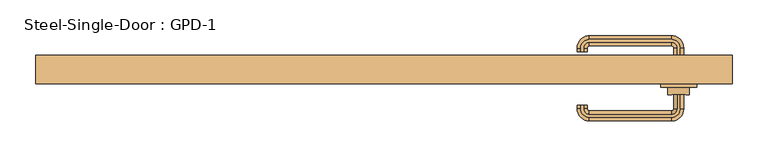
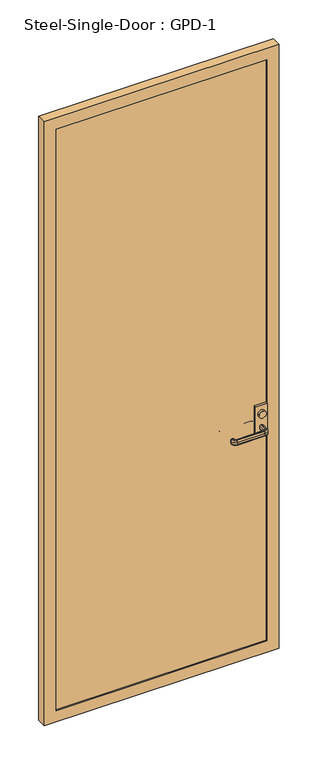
"""IFC4 building model written with IfcOpenShell, lengths in millimetres: door geometry, Steel-Single-Door : GPD-1."""

import ifcopenshell
import ifcopenshell.guid

model = None  # the IFC model being written
_history = None  # IfcOwnerHistory: only IFC2X3 demands one
_inside = {}  # id of a spatial element -> (the spatial element, [elements in it])
_under = {}  # id of a project, library or spatial element -> (it, [spatial elements below it])
_declared = {}  # id of a project -> (the project, [libraries it declares])
_typed = {}  # id of a type object -> (the type object, [elements of that type])
_made_of = {}  # id of a material, layer set ... -> (it, [elements and type objects made of it])


def new_model(schema):
    """Start an empty IFC model of exactly this schema.

    Asked for "IFC4X3", IfcOpenShell would pick the latest addendum, in which some entities
    have other attributes; the version numbers below select the first issue.
    IFC2X3 requires an IfcOwnerHistory on every rooted entity: one is made here for all.
    """
    global model, _history
    if schema == "IFC4X3":
        model = ifcopenshell.file(schema_version=(4, 3, 0, 0))
    else:
        model = ifcopenshell.file(schema=schema)
    _inside.clear()
    _under.clear()
    _declared.clear()
    _typed.clear()
    _made_of.clear()
    _history = None
    if model.schema == "IFC2X3":
        org = make("IfcOrganization", Name="unknown")
        user = make(
            "IfcPersonAndOrganization",
            ThePerson=make("IfcPerson", FamilyName="unknown"),
            TheOrganization=org,
        )
        app = make(
            "IfcApplication",
            ApplicationDeveloper=org,
            Version="unknown",
            ApplicationFullName="unknown",
            ApplicationIdentifier="unknown",
        )
        _history = make(
            "IfcOwnerHistory",
            OwningUser=user,
            OwningApplication=app,
            ChangeAction="ADDED",
            CreationDate=0,
        )
    return model


def make(cls, **values):
    """One entity of the class cls with the attributes given. An attribute that is None is left unset."""
    return model.create_entity(
        cls, **{name: value for name, value in values.items() if value is not None}
    )


def rooted(cls, **values):
    """An entity with a GlobalId (a new one), such as an element, a storey or a relation."""
    return make(cls, GlobalId=ifcopenshell.guid.new(), OwnerHistory=_history, **values)


def si_unit(unit_type, name, prefix=None):
    """IfcSIUnit, for example si_unit("LENGTHUNIT", "METRE", prefix="MILLI")."""
    return make("IfcSIUnit", UnitType=unit_type, Prefix=prefix, Name=name)


def assignment(units):
    """IfcUnitAssignment: the units of a project."""
    return None if units is None else make("IfcUnitAssignment", Units=units)


def point(xyz):
    """IfcCartesianPoint."""
    return None if xyz is None else make("IfcCartesianPoint", Coordinates=xyz)


def direction(xyz):
    """IfcDirection."""
    return None if xyz is None else make("IfcDirection", DirectionRatios=xyz)


def frame(location, z_axis=None, x_axis=None):
    """IfcAxis2Placement3D, a coordinate frame: its origin and axes. An axis left out is left unset."""
    return make(
        "IfcAxis2Placement3D",
        Location=point(location),
        Axis=direction(z_axis),
        RefDirection=direction(x_axis),
    )


def frame_2d(location, x_axis=None):
    """IfcAxis2Placement2D, a coordinate frame in the plane: its origin and x axis."""
    return make(
        "IfcAxis2Placement2D", Location=point(location), RefDirection=direction(x_axis)
    )


def origin():
    """The frame at (0, 0, 0) with its axes left unset."""
    return frame((0.0, 0.0, 0.0))


def place(relative_to, where):
    """IfcLocalPlacement: puts the frame where relative to a parent placement (None: the world)."""
    return make(
        "IfcLocalPlacement", PlacementRelTo=relative_to, RelativePlacement=where
    )


def context(
    kind, dimensions, precision=None, world=None, true_north=None, identifier=None
):
    """IfcGeometricRepresentationContext, for example the 3D "Model" context."""
    return make(
        "IfcGeometricRepresentationContext",
        ContextIdentifier=identifier,
        ContextType=kind,
        CoordinateSpaceDimension=dimensions,
        Precision=precision,
        WorldCoordinateSystem=world,
        TrueNorth=true_north,
    )


def project(units=None, contexts=None):
    """IfcProject with its units and contexts."""
    return rooted(
        "IfcProject",
        Name="project",
        RepresentationContexts=contexts,
        UnitsInContext=assignment(units),
    )


def spatial(cls, under=None, at=None, **own):
    """A site, building, storey or space (cls), placed at a placement, below another one or the project."""
    s = rooted(cls, ObjectPlacement=at, **own)
    if under is not None:
        _under.setdefault(under.id(), (under, []))[1].append(s)
    return s


def polyline(points):
    """IfcPolyline through the points."""
    return make("IfcPolyline", Points=[point(p) for p in points])


def circle_curve(where, radius):
    """IfcCircle in the frame where."""
    return make("IfcCircle", Position=where, Radius=radius)


def ellipse_curve(where, semi_axis1, semi_axis2):
    """IfcEllipse in the frame where."""
    return make(
        "IfcEllipse", Position=where, SemiAxis1=semi_axis1, SemiAxis2=semi_axis2
    )


def trimmed(basis, trim1, trim2, sense, master):
    """IfcTrimmedCurve: the piece of a basis curve between two trims."""
    return make(
        "IfcTrimmedCurve",
        BasisCurve=basis,
        Trim1=trim1,
        Trim2=trim2,
        SenseAgreement=sense,
        MasterRepresentation=master,
    )


def segment(curve, same_sense, transition):
    """IfcCompositeCurveSegment."""
    return make(
        "IfcCompositeCurveSegment",
        Transition=transition,
        SameSense=same_sense,
        ParentCurve=curve,
    )


def composite_curve(segments, self_intersect=None):
    """IfcCompositeCurve: segments joined end to end."""
    return make("IfcCompositeCurve", Segments=segments, SelfIntersect=self_intersect)


def outline(outer, holes=None, kind="AREA"):
    """IfcArbitraryClosedProfileDef: a profile drawn as a closed curve; with holes, ...WithVoids."""
    if holes is None:
        return make("IfcArbitraryClosedProfileDef", ProfileType=kind, OuterCurve=outer)
    return make(
        "IfcArbitraryProfileDefWithVoids",
        ProfileType=kind,
        OuterCurve=outer,
        InnerCurves=holes,
    )


def extrude(swept, where, along, depth):
    """IfcExtrudedAreaSolid: the profile swept, set in the frame where, extruded along a direction by depth."""
    return make(
        "IfcExtrudedAreaSolid",
        SweptArea=swept,
        Position=where,
        ExtrudedDirection=direction(along),
        Depth=depth,
    )


def shape(context_of_items, identifier, shape_type, items):
    """IfcShapeRepresentation: the items that make up one representation, for example the "Body"."""
    return make(
        "IfcShapeRepresentation",
        ContextOfItems=context_of_items,
        RepresentationIdentifier=identifier,
        RepresentationType=shape_type,
        Items=items,
    )


def source(mapping_origin, context_of_items, identifier, shape_type, items):
    """IfcRepresentationMap: a shape defined once, which mapped items show again and again."""
    return make(
        "IfcRepresentationMap",
        MappingOrigin=mapping_origin,
        MappedRepresentation=shape(context_of_items, identifier, shape_type, items),
    )


def transform(
    local_origin,
    x_axis=None,
    y_axis=None,
    z_axis=None,
    scale=None,
    scale2=None,
    scale3=None,
    uniform=True,
):
    """IfcCartesianTransformationOperator3D, or its non-uniform kind. x_axis, y_axis, z_axis: its Axis1, 2, 3."""
    if uniform:
        return make(
            "IfcCartesianTransformationOperator3D",
            Axis1=direction(x_axis),
            Axis2=direction(y_axis),
            LocalOrigin=point(local_origin),
            Scale=scale,
            Axis3=direction(z_axis),
        )
    return make(
        "IfcCartesianTransformationOperator3DnonUniform",
        Axis1=direction(x_axis),
        Axis2=direction(y_axis),
        LocalOrigin=point(local_origin),
        Scale=scale,
        Axis3=direction(z_axis),
        Scale2=scale2,
        Scale3=scale3,
    )


def mapped(mapping_source, mapping_target):
    """IfcMappedItem: shows the shape of a source again, moved by a transform."""
    return make(
        "IfcMappedItem", MappingSource=mapping_source, MappingTarget=mapping_target
    )


def made_of(thing, what):
    """Note that an element or type object is made of a material, layer set ...; save() writes the relation."""
    if what is not None:
        _made_of.setdefault(what.id(), (what, []))[1].append(thing)
    return thing


def element(
    cls,
    number,
    at=None,
    inside=None,
    cuts=None,
    type_object=None,
    material=None,
    context=None,
    identifier="Body",
    shape_type=None,
    held_by="IfcProductDefinitionShape",
    body=None,
    shapes=None,
    **own,
):
    """One element of the class cls, such as IfcWall. Its Tag is "e" and its number.

    at: its placement. inside: the storey or other place that contains it. cuts: it is an
    opening in that element (IfcRelVoidsElement). A single representation is given by context,
    identifier, shape_type and body (its items); several are given by shapes. held_by: the class
    of the entity that holds the representations. save() writes the other relations.
    """
    e = rooted(cls, Tag="e%d" % number, ObjectPlacement=at, **own)
    if body is not None:
        shapes = [shape(context, identifier, shape_type, body)]
    if shapes is not None:
        e.Representation = make(held_by, Representations=shapes)
    if inside is not None:
        _inside.setdefault(inside.id(), (inside, []))[1].append(e)
    if cuts is not None:
        rooted(
            "IfcRelVoidsElement", RelatingBuildingElement=cuts, RelatedOpeningElement=e
        )
    if type_object is not None:
        _typed.setdefault(type_object.id(), (type_object, []))[1].append(e)
    return made_of(e, material)


def aggregate(whole, parts):
    """IfcRelAggregates: a whole, such as a stair, and the parts it consists of."""
    return rooted("IfcRelAggregates", RelatingObject=whole, RelatedObjects=parts)


def save(model, path):
    """Write the relations noted so far, then the file.

    IfcRelAggregates (storeys below a building ...), IfcRelContainedInSpatialStructure (elements
    in a storey), IfcRelDefinesByType, IfcRelAssociatesMaterial and IfcRelDeclares: one each for
    every whole, place, type object, material and project.
    """
    for whole, parts in _under.values():
        aggregate(whole, parts)
    for where, things in _inside.values():
        rooted(
            "IfcRelContainedInSpatialStructure",
            RelatedElements=things,
            RelatingStructure=where,
        )
    for kind, things in _typed.values():
        rooted("IfcRelDefinesByType", RelatedObjects=things, RelatingType=kind)
    for what, things in _made_of.values():
        rooted("IfcRelAssociatesMaterial", RelatedObjects=things, RelatingMaterial=what)
    for by, libraries in _declared.values():
        rooted("IfcRelDeclares", RelatingContext=by, RelatedDefinitions=libraries)
    model.write(path)


def plane_surface(at):
    """IfcPlane: the flat surface through the origin of the frame at, square to its z axis."""
    return make("IfcPlane", Position=at)


def cylinder_surface(at, radius):
    """IfcCylindricalSurface: all points at the distance radius from the z axis of the frame at."""
    return make("IfcCylindricalSurface", Position=at, Radius=radius)


def revolved_surface(curve, axis_point, axis_direction):
    """IfcSurfaceOfRevolution: the curve turned about the line through axis_point along axis_direction."""
    return make(
        "IfcSurfaceOfRevolution",
        SweptCurve=make("IfcArbitraryOpenProfileDef", ProfileType="CURVE", Curve=curve),
        AxisPosition=make("IfcAxis1Placement", Location=point(axis_point), Axis=direction(axis_direction)),
    )


def advanced_brep(points, edges, surfaces, faces):
    """IfcAdvancedBrep: a solid bounded by faces that lie on surfaces and meet in shared edges.

    An edge is (start, end): straight between two places in points (the first is 0);
    or (start, end, curve); or (start, end, curve, False) where it runs against its curve.
    A face is (place in surfaces, loops), or (place, loops, False) where it looks against
    its surface's normal. A loop lists edges by number (the first is 1), with a minus sign
    where the edge is run from its end to its start. The first loop is the outer one.
    """
    corners = [point(p) for p in points]
    vertices = [make("IfcVertexPoint", VertexGeometry=c) for c in corners]
    made = []
    for start, end, *more in edges:
        made.append(
            make(
                "IfcEdgeCurve",
                EdgeStart=vertices[start],
                EdgeEnd=vertices[end],
                EdgeGeometry=more[0] if more else make("IfcPolyline", Points=[corners[start], corners[end]]),
                SameSense=more[1] if len(more) > 1 else True,
            )
        )
    hull = []
    for where, loops, *sense in faces:
        bounds = []
        for j, loop in enumerate(loops):
            ring = [make("IfcOrientedEdge", EdgeElement=made[abs(k) - 1], Orientation=k > 0) for k in loop]
            bounds.append(
                make(
                    "IfcFaceOuterBound" if j == 0 else "IfcFaceBound",
                    Bound=make("IfcEdgeLoop", EdgeList=ring),
                    Orientation=True,
                )
            )
        hull.append(make("IfcAdvancedFace", Bounds=bounds, FaceSurface=surfaces[where], SameSense=sense[0] if sense else True))
    return make("IfcAdvancedBrep", Outer=make("IfcClosedShell", CfsFaces=hull))


def steel_single_door_gpd_1_74bd187e(model_context):
    return source(origin(), model_context, "Body", "SolidModel", [
        extrude(outline(composite_curve([segment(trimmed(circle_curve(frame_2d((1060.1793562, 412.5)), 15.0), [point((1060.1793562, 397.5))], [point((1060.1793562, 427.5))], False, "CARTESIAN"), True, "CONTINUOUS"), segment(trimmed(circle_curve(frame_2d((1060.1793562, 412.5)), 15.0), [point((1060.1793562, 427.5))], [point((1060.1793562, 397.5))], False, "CARTESIAN"), True, "CONTINUOUS")], self_intersect=False)), frame((0.0, -65.0, 0.0), z_axis=(0.0, 1.0, 0.0), x_axis=(0.0, 0.0, 1.0)), (0.0, 0.0, 1.0), 10.0),
        extrude(outline(composite_curve([segment(trimmed(circle_curve(frame_2d((1060.1793562, 412.5)), 15.0), [point((1060.1793562, 427.5))], [point((1060.1793562, 397.5))], False, "CARTESIAN"), True, "CONTINUOUS"), segment(trimmed(circle_curve(frame_2d((1060.1793562, 412.5)), 15.0), [point((1060.1793562, 397.5))], [point((1060.1793562, 427.5))], False, "CARTESIAN"), True, "CONTINUOUS")], self_intersect=False)), frame((0.0, -30.0, 0.0), z_axis=(0.0, 1.0, 0.0), x_axis=(0.0, 0.0, 1.0)), (0.0, 0.0, 1.0), 10.0),
        advanced_brep(
        [(414.5, -55.0, 1010.0), (419.5, -55.0, 1005.0), (419.5, -55.0, 995.0477623), (414.5, -55.0, 990.0477623), (410.5, -55.0, 990.0477623), (405.5, -55.0, 995.0477623), (405.5, -55.0, 1005.0), (410.5, -55.0, 1010.0), (414.5, -85.0, 1010.0), (419.5, -85.0, 1005.0), (419.5, -85.0, 995.0477623), (414.5, -85.0, 990.0477623), (402.5, -97.0, 990.0477623), (287.5, -97.0, 990.0477623), (275.5, -85.0, 990.0477623), (275.5, -80.0, 990.0477623), (279.5, -80.0, 990.0477623), (279.5, -85.0, 990.0477623), (287.5, -93.0, 990.0477623), (402.5, -93.0, 990.0477623), (410.5, -85.0, 990.0477623), (405.5, -85.0, 995.0477623), (405.5, -85.0, 1005.0), (410.5, -85.0, 1010.0), (402.5, -93.0, 1010.0), (287.5, -93.0, 1010.0), (279.5, -85.0, 1010.0), (279.5, -80.0, 1010.0), (275.5, -80.0, 1010.0), (275.5, -85.0, 1010.0), (287.5, -97.0, 1010.0), (402.5, -97.0, 1010.0), (402.5, -102.0, 1005.0), (402.5, -102.0, 995.0477623), (402.5, -88.0, 995.0477623), (402.5, -88.0, 1005.0), (287.5, -102.0, 1005.0), (287.5, -102.0, 995.0477623), (287.5, -88.0, 995.0477623), (287.5, -88.0, 1005.0), (270.5, -85.0, 1005.0), (270.5, -85.0, 995.0477623), (284.5, -85.0, 995.0477623), (284.5, -85.0, 1005.0), (284.5, -80.0, 1005.0), (284.5, -80.0, 995.0477623), (270.5, -80.0, 995.0477623), (270.5, -80.0, 1005.0)],
        [
            (0, 1, circle_curve(frame((414.5, -55.0, 1005.0), z_axis=(0.0, 1.0, 0.0), x_axis=(1.0, 0.0, 0.0)), 5.0)),
            (1, 2),
            (2, 3, circle_curve(frame((414.5, -55.0, 995.0477623), z_axis=(0.0, 1.0, 0.0), x_axis=(1.0, 0.0, 0.0)), 5.0)),
            (3, 4),
            (4, 5, circle_curve(frame((410.5, -55.0, 995.0477623), z_axis=(0.0, 1.0, 0.0), x_axis=(1.0, 0.0, 0.0)), 5.0)),
            (5, 6),
            (6, 7, circle_curve(frame((410.5, -55.0, 1005.0), z_axis=(0.0, 1.0, 0.0), x_axis=(1.0, 0.0, 0.0)), 5.0)),
            (7, 0),
            (0, 8),
            (8, 9, circle_curve(frame((414.5, -85.0, 1005.0), z_axis=(0.0, 1.0, 0.0), x_axis=(1.0, 0.0, 0.0)), 5.0)),
            (9, 1),
            (9, 10),
            (10, 2),
            (10, 11, circle_curve(frame((414.5, -85.0, 995.0477623), z_axis=(0.0, 1.0, 0.0), x_axis=(1.0, 0.0, 0.0)), 5.0)),
            (11, 3),
            (11, 12, circle_curve(frame((402.5, -85.0, 990.0477623), z_axis=(0.0, 0.0, -1.0), x_axis=(1.0, 0.0, 0.0)), 12.0)),
            (12, 13),
            (13, 14, circle_curve(frame((287.5, -85.0, 990.0477623), z_axis=(0.0, 0.0, -1.0), x_axis=(0.0, -1.0, 0.0)), 12.0)),
            (14, 15),
            (15, 16),
            (16, 17),
            (17, 18, circle_curve(frame((287.5, -85.0, 990.0477623), z_axis=(0.0, 0.0, 1.0), x_axis=(0.0, -1.0, 0.0)), 8.0)),
            (18, 19),
            (19, 20, circle_curve(frame((402.5, -85.0, 990.0477623), z_axis=(0.0, 0.0, 1.0), x_axis=(1.0, 0.0, 0.0)), 8.0)),
            (20, 4),
            (20, 21, circle_curve(frame((410.5, -85.0, 995.0477623), z_axis=(0.0, 1.0, 0.0), x_axis=(1.0, 0.0, 0.0)), 5.0)),
            (21, 5),
            (21, 22),
            (22, 6),
            (22, 23, circle_curve(frame((410.5, -85.0, 1005.0), z_axis=(0.0, 1.0, 0.0), x_axis=(1.0, 0.0, 0.0)), 5.0)),
            (23, 7),
            (23, 24, circle_curve(frame((402.5, -85.0, 1010.0), z_axis=(0.0, 0.0, -1.0), x_axis=(1.0, 0.0, 0.0)), 8.0)),
            (24, 25),
            (25, 26, circle_curve(frame((287.5, -85.0, 1010.0), z_axis=(0.0, 0.0, -1.0), x_axis=(0.0, -1.0, 0.0)), 8.0)),
            (26, 27),
            (27, 28),
            (28, 29),
            (29, 30, circle_curve(frame((287.5, -85.0, 1010.0), z_axis=(0.0, 0.0, 1.0), x_axis=(0.0, -1.0, 0.0)), 12.0)),
            (30, 31),
            (31, 8, circle_curve(frame((402.5, -85.0, 1010.0), z_axis=(0.0, 0.0, 1.0), x_axis=(1.0, 0.0, 0.0)), 12.0)),
            (32, 9, circle_curve(frame((402.5, -85.0, 1005.0), z_axis=(0.0, 0.0, 1.0), x_axis=(1.0, 0.0, 0.0)), 17.0)),
            (31, 32, circle_curve(frame((402.5, -97.0, 1005.0), z_axis=(1.0, 0.0, 0.0), x_axis=(0.0, -1.0, 0.0)), 5.0)),
            (33, 10, circle_curve(frame((402.5, -85.0, 995.0477623), z_axis=(0.0, 0.0, 1.0), x_axis=(1.0, 0.0, 0.0)), 17.0)),
            (32, 33),
            (33, 12, circle_curve(frame((402.5, -97.0, 995.0477623), z_axis=(1.0, 0.0, 0.0), x_axis=(0.0, -1.0, 0.0)), 5.0)),
            (34, 21, circle_curve(frame((402.5, -85.0, 995.0477623), z_axis=(0.0, 0.0, 1.0), x_axis=(1.0, 0.0, 0.0)), 3.0)),
            (19, 34, circle_curve(frame((402.5, -93.0, 995.0477623), z_axis=(1.0, 0.0, 0.0), x_axis=(0.0, -1.0, 0.0)), 5.0)),
            (35, 22, circle_curve(frame((402.5, -85.0, 1005.0), z_axis=(0.0, 0.0, 1.0), x_axis=(1.0, 0.0, 0.0)), 3.0)),
            (34, 35),
            (35, 24, circle_curve(frame((402.5, -93.0, 1005.0), z_axis=(1.0, 0.0, 0.0), x_axis=(0.0, -1.0, 0.0)), 5.0)),
            (30, 36, circle_curve(frame((287.5, -97.0, 1005.0), z_axis=(1.0, 0.0, 0.0), x_axis=(0.0, -1.0, 0.0)), 5.0)),
            (36, 32),
            (36, 37),
            (37, 33),
            (37, 13, circle_curve(frame((287.5, -97.0, 995.0477623), z_axis=(1.0, 0.0, 0.0), x_axis=(0.0, -1.0, 0.0)), 5.0)),
            (18, 38, circle_curve(frame((287.5, -93.0, 995.0477623), z_axis=(1.0, 0.0, 0.0), x_axis=(0.0, -1.0, 0.0)), 5.0)),
            (38, 34),
            (38, 39),
            (39, 35),
            (39, 25, circle_curve(frame((287.5, -93.0, 1005.0), z_axis=(1.0, 0.0, 0.0), x_axis=(0.0, -1.0, 0.0)), 5.0)),
            (40, 36, circle_curve(frame((287.5, -85.0, 1005.0), z_axis=(0.0, 0.0, 1.0), x_axis=(0.0, -1.0, 0.0)), 17.0)),
            (29, 40, circle_curve(frame((275.5, -85.0, 1005.0), z_axis=(0.0, -1.0, 0.0), x_axis=(-1.0, 0.0, 0.0)), 5.0)),
            (41, 37, circle_curve(frame((287.5, -85.0, 995.0477623), z_axis=(0.0, 0.0, 1.0), x_axis=(0.0, -1.0, 0.0)), 17.0)),
            (40, 41),
            (41, 14, circle_curve(frame((275.5, -85.0, 995.0477623), z_axis=(0.0, -1.0, 0.0), x_axis=(-1.0, 0.0, 0.0)), 5.0)),
            (42, 38, circle_curve(frame((287.5, -85.0, 995.0477623), z_axis=(0.0, 0.0, 1.0), x_axis=(0.0, -1.0, 0.0)), 3.0)),
            (17, 42, circle_curve(frame((279.5, -85.0, 995.0477623), z_axis=(0.0, -1.0, 0.0), x_axis=(-1.0, 0.0, 0.0)), 5.0)),
            (43, 39, circle_curve(frame((287.5, -85.0, 1005.0), z_axis=(0.0, 0.0, 1.0), x_axis=(0.0, -1.0, 0.0)), 3.0)),
            (42, 43),
            (43, 26, circle_curve(frame((279.5, -85.0, 1005.0), z_axis=(0.0, -1.0, 0.0), x_axis=(-1.0, 0.0, 0.0)), 5.0)),
            (27, 44, circle_curve(frame((279.5, -80.0, 1005.0), z_axis=(0.0, 1.0, 0.0), x_axis=(-1.0, 0.0, 0.0)), 5.0)),
            (44, 45),
            (45, 16, circle_curve(frame((279.5, -80.0, 995.0477623), z_axis=(0.0, 1.0, 0.0), x_axis=(-1.0, 0.0, 0.0)), 5.0)),
            (15, 46, circle_curve(frame((275.5, -80.0, 995.0477623), z_axis=(0.0, 1.0, 0.0), x_axis=(-1.0, 0.0, 0.0)), 5.0)),
            (46, 47),
            (47, 28, circle_curve(frame((275.5, -80.0, 1005.0), z_axis=(0.0, 1.0, 0.0), x_axis=(-1.0, 0.0, 0.0)), 5.0)),
            (47, 40),
            (46, 41),
            (45, 42),
            (44, 43),
        ],
        [
            plane_surface(frame((422.698039, -55.0, 1000.0), z_axis=(0.0, 1.0, 0.0), x_axis=(0.0, 0.0, 1.0))),
            cylinder_surface(frame((414.5, -55.0, 1005.0), z_axis=(0.0, 1.0, 0.0), x_axis=(1.0, 0.0, 0.0)), 5.0),
            plane_surface(frame((419.5, -55.0, 1005.0), z_axis=(1.0, 0.0, 0.0), x_axis=(0.0, -1.0, 0.0))),
            cylinder_surface(frame((414.5, -55.0, 995.0477623), z_axis=(0.0, 1.0, 0.0), x_axis=(1.0, 0.0, 0.0)), 5.0),
            plane_surface(frame((414.5, -55.0, 990.0477623), z_axis=(0.0, 0.0, -1.0), x_axis=(0.0, -1.0, 0.0))),
            cylinder_surface(frame((410.5, -55.0, 995.0477623), z_axis=(0.0, 1.0, 0.0), x_axis=(1.0, 0.0, 0.0)), 5.0),
            plane_surface(frame((405.5, -55.0, 995.0477623), z_axis=(-1.0, 0.0, 0.0), x_axis=(0.0, -1.0, 0.0))),
            cylinder_surface(frame((410.5, -55.0, 1005.0), z_axis=(0.0, 1.0, 0.0), x_axis=(1.0, 0.0, 0.0)), 5.0),
            plane_surface(frame((410.5, -55.0, 1010.0), z_axis=(0.0, 0.0, 1.0), x_axis=(0.0, -1.0, 0.0))),
            revolved_surface(trimmed(ellipse_curve(frame((414.5, -85.0, 1005.0), z_axis=(0.0, 1.0, 0.0), x_axis=(1.0, 0.0, 0.0)), 5.0, 5.0), [point((414.5, -85.0, 1010.0))], [point((419.5, -85.0, 1005.0))], True, "CARTESIAN"), (402.5, -85.0, 1000.0), (0.0, 0.0, -1.0)),
            cylinder_surface(frame((402.5, -85.0, 1000.0), z_axis=(0.0, 0.0, -1.0), x_axis=(1.0, 0.0, 0.0)), 17.0),
            revolved_surface(trimmed(ellipse_curve(frame((414.5, -85.0, 995.0477623), z_axis=(0.0, 1.0, 0.0), x_axis=(1.0, 0.0, 0.0)), 5.0, 5.0), [point((419.5, -85.0, 995.0477623))], [point((414.5, -85.0, 990.0477623))], True, "CARTESIAN"), (402.5, -85.0, 1000.0), (0.0, 0.0, -1.0)),
            revolved_surface(trimmed(ellipse_curve(frame((410.5, -85.0, 995.0477623), z_axis=(0.0, 1.0, 0.0), x_axis=(1.0, 0.0, 0.0)), 5.0, 5.0), [point((410.5, -85.0, 990.0477623))], [point((405.5, -85.0, 995.0477623))], True, "CARTESIAN"), (402.5, -85.0, 1000.0), (0.0, 0.0, -1.0)),
            revolved_surface(polyline([(405.5, -85.0, 995.0477623), (405.5, -85.0, 1005.0)]), (402.5, -85.0, 1000.0), (0.0, 0.0, -1.0)),
            revolved_surface(trimmed(ellipse_curve(frame((410.5, -85.0, 1005.0), z_axis=(0.0, 1.0, 0.0), x_axis=(1.0, 0.0, 0.0)), 5.0, 5.0), [point((405.5, -85.0, 1005.0))], [point((410.5, -85.0, 1010.0))], True, "CARTESIAN"), (402.5, -85.0, 1000.0), (0.0, 0.0, -1.0)),
            cylinder_surface(frame((402.5, -97.0, 1005.0), z_axis=(1.0, 0.0, 0.0), x_axis=(0.0, -1.0, 0.0)), 5.0),
            plane_surface(frame((402.5, -102.0, 1005.0), z_axis=(0.0, -1.0, 0.0), x_axis=(-1.0, 0.0, 0.0))),
            cylinder_surface(frame((402.5, -97.0, 995.0477623), z_axis=(1.0, 0.0, 0.0), x_axis=(0.0, -1.0, 0.0)), 5.0),
            cylinder_surface(frame((402.5, -93.0, 995.0477623), z_axis=(1.0, 0.0, 0.0), x_axis=(0.0, -1.0, 0.0)), 5.0),
            plane_surface(frame((402.5, -88.0, 995.0477623), z_axis=(0.0, 1.0, 0.0), x_axis=(-1.0, 0.0, 0.0))),
            cylinder_surface(frame((402.5, -93.0, 1005.0), z_axis=(1.0, 0.0, 0.0), x_axis=(0.0, -1.0, 0.0)), 5.0),
            revolved_surface(trimmed(ellipse_curve(frame((287.5, -97.0, 1005.0), z_axis=(1.0, 0.0, 0.0), x_axis=(0.0, -1.0, 0.0)), 5.0, 5.0), [point((287.5, -97.0, 1010.0))], [point((287.5, -102.0, 1005.0))], True, "CARTESIAN"), (287.5, -85.0, 1000.0), (0.0, 0.0, -1.0)),
            cylinder_surface(frame((287.5, -85.0, 1000.0), z_axis=(0.0, 0.0, -1.0), x_axis=(0.0, -1.0, 0.0)), 17.0),
            revolved_surface(trimmed(ellipse_curve(frame((287.5, -97.0, 995.0477623), z_axis=(1.0, 0.0, 0.0), x_axis=(0.0, -1.0, 0.0)), 5.0, 5.0), [point((287.5, -102.0, 995.0477623))], [point((287.5, -97.0, 990.0477623))], True, "CARTESIAN"), (287.5, -85.0, 1000.0), (0.0, 0.0, -1.0)),
            revolved_surface(trimmed(ellipse_curve(frame((287.5, -93.0, 995.0477623), z_axis=(1.0, 0.0, 0.0), x_axis=(0.0, -1.0, 0.0)), 5.0, 5.0), [point((287.5, -93.0, 990.0477623))], [point((287.5, -88.0, 995.0477623))], True, "CARTESIAN"), (287.5, -85.0, 1000.0), (0.0, 0.0, -1.0)),
            revolved_surface(polyline([(287.5, -88.0, 995.0477623), (287.5, -88.0, 1005.0)]), (287.5, -85.0, 1000.0), (0.0, 0.0, -1.0)),
            revolved_surface(trimmed(ellipse_curve(frame((287.5, -93.0, 1005.0), z_axis=(1.0, 0.0, 0.0), x_axis=(0.0, -1.0, 0.0)), 5.0, 5.0), [point((287.5, -88.0, 1005.0))], [point((287.5, -93.0, 1010.0))], True, "CARTESIAN"), (287.5, -85.0, 1000.0), (0.0, 0.0, -1.0)),
            plane_surface(frame((287.698039, -80.0, 1000.0), z_axis=(0.0, 1.0, 0.0), x_axis=(0.0, 0.0, -1.0))),
            cylinder_surface(frame((275.5, -85.0, 1005.0), z_axis=(0.0, -1.0, 0.0), x_axis=(-1.0, 0.0, 0.0)), 5.0),
            plane_surface(frame((270.5, -85.0, 1005.0), z_axis=(-1.0, 0.0, 0.0), x_axis=(0.0, 1.0, 0.0))),
            cylinder_surface(frame((275.5, -85.0, 995.0477623), z_axis=(0.0, -1.0, 0.0), x_axis=(-1.0, 0.0, 0.0)), 5.0),
            cylinder_surface(frame((279.5, -85.0, 995.0477623), z_axis=(0.0, -1.0, 0.0), x_axis=(-1.0, 0.0, 0.0)), 5.0),
            plane_surface(frame((284.5, -85.0, 995.0477623), z_axis=(1.0, 0.0, 0.0), x_axis=(0.0, 1.0, 0.0))),
            cylinder_surface(frame((279.5, -85.0, 1005.0), z_axis=(0.0, -1.0, 0.0), x_axis=(-1.0, 0.0, 0.0)), 5.0),
        ],
        [
            (0, [[1, 2, 3, 4, 5, 6, 7, 8]]),
            (1, [[-1, 9, 10, 11]]),
            (2, [[-2, -11, 12, 13]]),
            (3, [[-3, -13, 14, 15]]),
            (4, [[-4, -15, 16, 17, 18, 19, 20, 21, 22, 23, 24, 25]]),
            (5, [[-5, -25, 26, 27]]),
            (6, [[-6, -27, 28, 29]]),
            (7, [[-7, -29, 30, 31]]),
            (8, [[-8, -31, 32, 33, 34, 35, 36, 37, 38, 39, 40, -9]]),
            (9, [[41, -10, -40, 42]]),
            (10, [[43, -12, -41, 44]]),
            (11, [[-16, -14, -43, 45]]),
            (12, [[46, -26, -24, 47]]),
            (13, [[48, -28, -46, 49]]),
            (14, [[-32, -30, -48, 50]]),
            (15, [[-42, -39, 51, 52]]),
            (16, [[-44, -52, 53, 54]]),
            (17, [[-45, -54, 55, -17]]),
            (18, [[-47, -23, 56, 57]]),
            (19, [[-49, -57, 58, 59]]),
            (20, [[-50, -59, 60, -33]]),
            (21, [[61, -51, -38, 62]]),
            (22, [[63, -53, -61, 64]]),
            (23, [[-18, -55, -63, 65]]),
            (24, [[66, -56, -22, 67]]),
            (25, [[68, -58, -66, 69]]),
            (26, [[-34, -60, -68, 70]]),
            (27, [[-36, 71, 72, 73, -20, 74, 75, 76]]),
            (28, [[-62, -37, -76, 77]]),
            (29, [[-64, -77, -75, 78]]),
            (30, [[-65, -78, -74, -19]]),
            (31, [[-67, -21, -73, 79]]),
            (32, [[-69, -79, -72, 80]]),
            (33, [[-70, -80, -71, -35]]),
        ],
    ),
        advanced_brep(
        [(410.5, -30.0, 990.0), (414.5, -30.0, 990.0), (419.5, -30.0, 995.0), (419.5, -30.0, 1005.0), (414.5, -30.0, 1010.0), (410.5, -30.0, 1010.0), (405.5, -30.0, 1005.0), (405.5, -30.0, 995.0), (410.5, 0.0, 990.0), (402.5, 8.0, 990.0), (287.5, 8.0, 990.0), (279.5, 0.0, 990.0), (279.5, -5.0, 990.0), (275.5, -5.0, 990.0), (275.5, 0.0, 990.0), (287.5, 12.0, 990.0), (402.5, 12.0, 990.0), (414.5, 0.0, 990.0), (419.5, 0.0, 995.0), (419.5, 0.0, 1005.0), (414.5, 0.0, 1010.0), (402.5, 12.0, 1010.0), (287.5, 12.0, 1010.0), (275.5, 0.0, 1010.0), (275.5, -5.0, 1010.0), (279.5, -5.0, 1010.0), (279.5, 0.0, 1010.0), (287.5, 8.0, 1010.0), (402.5, 8.0, 1010.0), (410.5, 0.0, 1010.0), (405.5, 0.0, 1005.0), (405.5, 0.0, 995.0), (402.5, 17.0, 995.0), (402.5, 17.0, 1005.0), (402.5, 3.0, 1005.0), (402.5, 3.0, 995.0), (287.5, 17.0, 995.0), (287.5, 17.0, 1005.0), (287.5, 3.0, 1005.0), (287.5, 3.0, 995.0), (270.5, 0.0, 995.0), (270.5, 0.0, 1005.0), (284.5, 0.0, 1005.0), (284.5, 0.0, 995.0), (284.5, -5.0, 995.0), (284.5, -5.0, 1005.0), (270.5, -5.0, 1005.0), (270.5, -5.0, 995.0)],
        [
            (0, 1),
            (1, 2, circle_curve(frame((414.5, -30.0, 995.0), z_axis=(0.0, -1.0, 0.0), x_axis=(-1.0, 0.0, 0.0)), 5.0)),
            (2, 3),
            (3, 4, circle_curve(frame((414.5, -30.0, 1005.0), z_axis=(0.0, -1.0, 0.0), x_axis=(-1.0, 0.0, 0.0)), 5.0)),
            (4, 5),
            (5, 6, circle_curve(frame((410.5, -30.0, 1005.0), z_axis=(0.0, -1.0, 0.0), x_axis=(-1.0, 0.0, 0.0)), 5.0)),
            (6, 7),
            (7, 0, circle_curve(frame((410.5, -30.0, 995.0), z_axis=(0.0, -1.0, 0.0), x_axis=(-1.0, 0.0, 0.0)), 5.0)),
            (0, 8),
            (8, 9, circle_curve(frame((402.5, 0.0, 990.0), z_axis=(0.0, 0.0, 1.0), x_axis=(1.0, 0.0, 0.0)), 8.0)),
            (9, 10),
            (10, 11, circle_curve(frame((287.5, 0.0, 990.0), z_axis=(0.0, 0.0, 1.0), x_axis=(0.0, 1.0, 0.0)), 8.0)),
            (11, 12),
            (12, 13),
            (13, 14),
            (14, 15, circle_curve(frame((287.5, 0.0, 990.0), z_axis=(0.0, 0.0, -1.0), x_axis=(0.0, 1.0, 0.0)), 12.0)),
            (15, 16),
            (16, 17, circle_curve(frame((402.5, 0.0, 990.0), z_axis=(0.0, 0.0, -1.0), x_axis=(1.0, 0.0, 0.0)), 12.0)),
            (17, 1),
            (17, 18, circle_curve(frame((414.5, 0.0, 995.0), z_axis=(0.0, -1.0, 0.0), x_axis=(-1.0, 0.0, 0.0)), 5.0)),
            (18, 2),
            (18, 19),
            (19, 3),
            (19, 20, circle_curve(frame((414.5, 0.0, 1005.0), z_axis=(0.0, -1.0, 0.0), x_axis=(-1.0, 0.0, 0.0)), 5.0)),
            (20, 4),
            (20, 21, circle_curve(frame((402.5, 0.0, 1010.0), z_axis=(0.0, 0.0, 1.0), x_axis=(1.0, 0.0, 0.0)), 12.0)),
            (21, 22),
            (22, 23, circle_curve(frame((287.5, 0.0, 1010.0), z_axis=(0.0, 0.0, 1.0), x_axis=(0.0, 1.0, 0.0)), 12.0)),
            (23, 24),
            (24, 25),
            (25, 26),
            (26, 27, circle_curve(frame((287.5, 0.0, 1010.0), z_axis=(0.0, 0.0, -1.0), x_axis=(0.0, 1.0, 0.0)), 8.0)),
            (27, 28),
            (28, 29, circle_curve(frame((402.5, 0.0, 1010.0), z_axis=(0.0, 0.0, -1.0), x_axis=(1.0, 0.0, 0.0)), 8.0)),
            (29, 5),
            (29, 30, circle_curve(frame((410.5, 0.0, 1005.0), z_axis=(0.0, -1.0, 0.0), x_axis=(-1.0, 0.0, 0.0)), 5.0)),
            (30, 6),
            (30, 31),
            (31, 7),
            (31, 8, circle_curve(frame((410.5, 0.0, 995.0), z_axis=(0.0, -1.0, 0.0), x_axis=(-1.0, 0.0, 0.0)), 5.0)),
            (32, 18, circle_curve(frame((402.5, 0.0, 995.0), z_axis=(0.0, 0.0, -1.0), x_axis=(1.0, 0.0, 0.0)), 17.0)),
            (16, 32, circle_curve(frame((402.5, 12.0, 995.0), z_axis=(1.0, 0.0, 0.0), x_axis=(0.0, -1.0, 0.0)), 5.0)),
            (33, 19, circle_curve(frame((402.5, 0.0, 1005.0), z_axis=(0.0, 0.0, -1.0), x_axis=(1.0, 0.0, 0.0)), 17.0)),
            (32, 33),
            (33, 21, circle_curve(frame((402.5, 12.0, 1005.0), z_axis=(1.0, 0.0, 0.0), x_axis=(0.0, -1.0, 0.0)), 5.0)),
            (34, 30, circle_curve(frame((402.5, 0.0, 1005.0), z_axis=(0.0, 0.0, -1.0), x_axis=(1.0, 0.0, 0.0)), 3.0)),
            (28, 34, circle_curve(frame((402.5, 8.0, 1005.0), z_axis=(1.0, 0.0, 0.0), x_axis=(0.0, -1.0, 0.0)), 5.0)),
            (35, 31, circle_curve(frame((402.5, 0.0, 995.0), z_axis=(0.0, 0.0, -1.0), x_axis=(1.0, 0.0, 0.0)), 3.0)),
            (34, 35),
            (35, 9, circle_curve(frame((402.5, 8.0, 995.0), z_axis=(1.0, 0.0, 0.0), x_axis=(0.0, -1.0, 0.0)), 5.0)),
            (15, 36, circle_curve(frame((287.5, 12.0, 995.0), z_axis=(1.0, 0.0, 0.0), x_axis=(0.0, -1.0, 0.0)), 5.0)),
            (36, 32),
            (36, 37),
            (37, 33),
            (37, 22, circle_curve(frame((287.5, 12.0, 1005.0), z_axis=(1.0, 0.0, 0.0), x_axis=(0.0, -1.0, 0.0)), 5.0)),
            (27, 38, circle_curve(frame((287.5, 8.0, 1005.0), z_axis=(1.0, 0.0, 0.0), x_axis=(0.0, -1.0, 0.0)), 5.0)),
            (38, 34),
            (38, 39),
            (39, 35),
            (39, 10, circle_curve(frame((287.5, 8.0, 995.0), z_axis=(1.0, 0.0, 0.0), x_axis=(0.0, -1.0, 0.0)), 5.0)),
            (40, 36, circle_curve(frame((287.5, 0.0, 995.0), z_axis=(0.0, 0.0, -1.0), x_axis=(0.0, 1.0, 0.0)), 17.0)),
            (14, 40, circle_curve(frame((275.5, 0.0, 995.0), z_axis=(0.0, 1.0, 0.0), x_axis=(1.0, 0.0, 0.0)), 5.0)),
            (41, 37, circle_curve(frame((287.5, 0.0, 1005.0), z_axis=(0.0, 0.0, -1.0), x_axis=(0.0, 1.0, 0.0)), 17.0)),
            (40, 41),
            (41, 23, circle_curve(frame((275.5, 0.0, 1005.0), z_axis=(0.0, 1.0, 0.0), x_axis=(1.0, 0.0, 0.0)), 5.0)),
            (42, 38, circle_curve(frame((287.5, 0.0, 1005.0), z_axis=(0.0, 0.0, -1.0), x_axis=(0.0, 1.0, 0.0)), 3.0)),
            (26, 42, circle_curve(frame((279.5, 0.0, 1005.0), z_axis=(0.0, 1.0, 0.0), x_axis=(1.0, 0.0, 0.0)), 5.0)),
            (43, 39, circle_curve(frame((287.5, 0.0, 995.0), z_axis=(0.0, 0.0, -1.0), x_axis=(0.0, 1.0, 0.0)), 3.0)),
            (42, 43),
            (43, 11, circle_curve(frame((279.5, 0.0, 995.0), z_axis=(0.0, 1.0, 0.0), x_axis=(1.0, 0.0, 0.0)), 5.0)),
            (12, 44, circle_curve(frame((279.5, -5.0, 995.0), z_axis=(0.0, -1.0, 0.0), x_axis=(1.0, 0.0, 0.0)), 5.0)),
            (44, 45),
            (45, 25, circle_curve(frame((279.5, -5.0, 1005.0), z_axis=(0.0, -1.0, 0.0), x_axis=(1.0, 0.0, 0.0)), 5.0)),
            (24, 46, circle_curve(frame((275.5, -5.0, 1005.0), z_axis=(0.0, -1.0, 0.0), x_axis=(1.0, 0.0, 0.0)), 5.0)),
            (46, 47),
            (47, 13, circle_curve(frame((275.5, -5.0, 995.0), z_axis=(0.0, -1.0, 0.0), x_axis=(1.0, 0.0, 0.0)), 5.0)),
            (47, 40),
            (46, 41),
            (45, 42),
            (44, 43),
        ],
        [
            plane_surface(frame((422.698039, -30.0, 1000.0), z_axis=(0.0, -1.0, 0.0), x_axis=(0.0, 0.0, -1.0))),
            plane_surface(frame((410.5, -30.0, 990.0), z_axis=(0.0, 0.0, -1.0), x_axis=(0.0, 1.0, 0.0))),
            cylinder_surface(frame((414.5, -30.0, 995.0), z_axis=(0.0, -1.0, 0.0), x_axis=(-1.0, 0.0, 0.0)), 5.0),
            plane_surface(frame((419.5, -30.0, 995.0), z_axis=(1.0, 0.0, 0.0), x_axis=(0.0, 1.0, 0.0))),
            cylinder_surface(frame((414.5, -30.0, 1005.0), z_axis=(0.0, -1.0, 0.0), x_axis=(-1.0, 0.0, 0.0)), 5.0),
            plane_surface(frame((414.5, -30.0, 1010.0), z_axis=(0.0, 0.0, 1.0), x_axis=(0.0, 1.0, 0.0))),
            cylinder_surface(frame((410.5, -30.0, 1005.0), z_axis=(0.0, -1.0, 0.0), x_axis=(-1.0, 0.0, 0.0)), 5.0),
            plane_surface(frame((405.5, -30.0, 1005.0), z_axis=(-1.0, 0.0, 0.0), x_axis=(0.0, 1.0, 0.0))),
            cylinder_surface(frame((410.5, -30.0, 995.0), z_axis=(0.0, -1.0, 0.0), x_axis=(-1.0, 0.0, 0.0)), 5.0),
            revolved_surface(trimmed(ellipse_curve(frame((414.5, 0.0, 995.0), z_axis=(0.0, -1.0, 0.0), x_axis=(-1.0, 0.0, 0.0)), 5.0, 5.0), [point((414.5, 0.0, 990.0))], [point((419.5, 0.0, 995.0))], True, "CARTESIAN"), (402.5, 0.0, 1000.0), (0.0, 0.0, 1.0)),
            cylinder_surface(frame((402.5, 0.0, 1000.0), z_axis=(0.0, 0.0, 1.0), x_axis=(1.0, 0.0, 0.0)), 17.0),
            revolved_surface(trimmed(ellipse_curve(frame((414.5, 0.0, 1005.0), z_axis=(0.0, -1.0, 0.0), x_axis=(-1.0, 0.0, 0.0)), 5.0, 5.0), [point((419.5, 0.0, 1005.0))], [point((414.5, 0.0, 1010.0))], True, "CARTESIAN"), (402.5, 0.0, 1000.0), (0.0, 0.0, 1.0)),
            revolved_surface(trimmed(ellipse_curve(frame((410.5, 0.0, 1005.0), z_axis=(0.0, -1.0, 0.0), x_axis=(-1.0, 0.0, 0.0)), 5.0, 5.0), [point((410.5, 0.0, 1010.0))], [point((405.5, 0.0, 1005.0))], True, "CARTESIAN"), (402.5, 0.0, 1000.0), (0.0, 0.0, 1.0)),
            revolved_surface(polyline([(405.5, 0.0, 1005.0), (405.5, 0.0, 995.0)]), (402.5, 0.0, 1000.0), (0.0, 0.0, 1.0)),
            revolved_surface(trimmed(ellipse_curve(frame((410.5, 0.0, 995.0), z_axis=(0.0, -1.0, 0.0), x_axis=(-1.0, 0.0, 0.0)), 5.0, 5.0), [point((405.5, 0.0, 995.0))], [point((410.5, 0.0, 990.0))], True, "CARTESIAN"), (402.5, 0.0, 1000.0), (0.0, 0.0, 1.0)),
            cylinder_surface(frame((402.5, 12.0, 995.0), z_axis=(1.0, 0.0, 0.0), x_axis=(0.0, -1.0, 0.0)), 5.0),
            plane_surface(frame((402.5, 17.0, 995.0), z_axis=(0.0, 1.0, 0.0), x_axis=(-1.0, 0.0, 0.0))),
            cylinder_surface(frame((402.5, 12.0, 1005.0), z_axis=(1.0, 0.0, 0.0), x_axis=(0.0, -1.0, 0.0)), 5.0),
            cylinder_surface(frame((402.5, 8.0, 1005.0), z_axis=(1.0, 0.0, 0.0), x_axis=(0.0, -1.0, 0.0)), 5.0),
            plane_surface(frame((402.5, 3.0, 1005.0), z_axis=(0.0, -1.0, 0.0), x_axis=(-1.0, 0.0, 0.0))),
            cylinder_surface(frame((402.5, 8.0, 995.0), z_axis=(1.0, 0.0, 0.0), x_axis=(0.0, -1.0, 0.0)), 5.0),
            revolved_surface(trimmed(ellipse_curve(frame((287.5, 12.0, 995.0), z_axis=(1.0, 0.0, 0.0), x_axis=(0.0, -1.0, 0.0)), 5.0, 5.0), [point((287.5, 12.0, 990.0))], [point((287.5, 17.0, 995.0))], True, "CARTESIAN"), (287.5, 0.0, 1000.0), (0.0, 0.0, 1.0)),
            cylinder_surface(frame((287.5, 0.0, 1000.0), z_axis=(0.0, 0.0, 1.0), x_axis=(0.0, 1.0, 0.0)), 17.0),
            revolved_surface(trimmed(ellipse_curve(frame((287.5, 12.0, 1005.0), z_axis=(1.0, 0.0, 0.0), x_axis=(0.0, -1.0, 0.0)), 5.0, 5.0), [point((287.5, 17.0, 1005.0))], [point((287.5, 12.0, 1010.0))], True, "CARTESIAN"), (287.5, 0.0, 1000.0), (0.0, 0.0, 1.0)),
            revolved_surface(trimmed(ellipse_curve(frame((287.5, 8.0, 1005.0), z_axis=(1.0, 0.0, 0.0), x_axis=(0.0, -1.0, 0.0)), 5.0, 5.0), [point((287.5, 8.0, 1010.0))], [point((287.5, 3.0, 1005.0))], True, "CARTESIAN"), (287.5, 0.0, 1000.0), (0.0, 0.0, 1.0)),
            revolved_surface(polyline([(287.5, 3.0, 1005.0), (287.5, 3.0, 995.0)]), (287.5, 0.0, 1000.0), (0.0, 0.0, 1.0)),
            revolved_surface(trimmed(ellipse_curve(frame((287.5, 8.0, 995.0), z_axis=(1.0, 0.0, 0.0), x_axis=(0.0, -1.0, 0.0)), 5.0, 5.0), [point((287.5, 3.0, 995.0))], [point((287.5, 8.0, 990.0))], True, "CARTESIAN"), (287.5, 0.0, 1000.0), (0.0, 0.0, 1.0)),
            plane_surface(frame((287.698039, -5.0, 1000.0), z_axis=(0.0, -1.0, 0.0), x_axis=(0.0, 0.0, 1.0))),
            cylinder_surface(frame((275.5, 0.0, 995.0), z_axis=(0.0, 1.0, 0.0), x_axis=(1.0, 0.0, 0.0)), 5.0),
            plane_surface(frame((270.5, 0.0, 995.0), z_axis=(-1.0, 0.0, 0.0), x_axis=(0.0, -1.0, 0.0))),
            cylinder_surface(frame((275.5, 0.0, 1005.0), z_axis=(0.0, 1.0, 0.0), x_axis=(1.0, 0.0, 0.0)), 5.0),
            cylinder_surface(frame((279.5, 0.0, 1005.0), z_axis=(0.0, 1.0, 0.0), x_axis=(1.0, 0.0, 0.0)), 5.0),
            plane_surface(frame((284.5, 0.0, 1005.0), z_axis=(1.0, 0.0, 0.0), x_axis=(0.0, -1.0, 0.0))),
            cylinder_surface(frame((279.5, 0.0, 995.0), z_axis=(0.0, 1.0, 0.0), x_axis=(1.0, 0.0, 0.0)), 5.0),
        ],
        [
            (0, [[1, 2, 3, 4, 5, 6, 7, 8]]),
            (1, [[-1, 9, 10, 11, 12, 13, 14, 15, 16, 17, 18, 19]]),
            (2, [[-2, -19, 20, 21]]),
            (3, [[-3, -21, 22, 23]]),
            (4, [[-4, -23, 24, 25]]),
            (5, [[-5, -25, 26, 27, 28, 29, 30, 31, 32, 33, 34, 35]]),
            (6, [[-6, -35, 36, 37]]),
            (7, [[-7, -37, 38, 39]]),
            (8, [[-8, -39, 40, -9]]),
            (9, [[41, -20, -18, 42]]),
            (10, [[43, -22, -41, 44]]),
            (11, [[-26, -24, -43, 45]]),
            (12, [[46, -36, -34, 47]]),
            (13, [[48, -38, -46, 49]]),
            (14, [[-10, -40, -48, 50]]),
            (15, [[-42, -17, 51, 52]]),
            (16, [[-44, -52, 53, 54]]),
            (17, [[-45, -54, 55, -27]]),
            (18, [[-47, -33, 56, 57]]),
            (19, [[-49, -57, 58, 59]]),
            (20, [[-50, -59, 60, -11]]),
            (21, [[61, -51, -16, 62]]),
            (22, [[63, -53, -61, 64]]),
            (23, [[-28, -55, -63, 65]]),
            (24, [[66, -56, -32, 67]]),
            (25, [[68, -58, -66, 69]]),
            (26, [[-12, -60, -68, 70]]),
            (27, [[71, 72, 73, -30, 74, 75, 76, -14]]),
            (28, [[-62, -15, -76, 77]]),
            (29, [[-64, -77, -75, 78]]),
            (30, [[-65, -78, -74, -29]]),
            (31, [[-67, -31, -73, 79]]),
            (32, [[-69, -79, -72, 80]]),
            (33, [[-70, -80, -71, -13]]),
        ],
    ),
        extrude(outline(polyline([(387.5, -45.0), (437.5, -45.0), (437.5, -55.0), (387.5, -55.0), (387.5, -45.0)])), frame((0.0, 0.0, 975.0), z_axis=(0.0, 0.0, 1.0), x_axis=(1.0, 0.0, 0.0)), (0.0, 0.0, 1.0), 120.1793562),
        extrude(outline(polyline([(387.5, -30.0), (437.5, -30.0), (437.5, -40.0), (387.5, -40.0), (387.5, -30.0)])), frame((0.0, 0.0, 975.0), z_axis=(0.0, 0.0, 1.0), x_axis=(1.0, 0.0, 0.0)), (0.0, 0.0, 1.0), 120.1793562),
        extrude(outline(polyline([(-437.5, -45.0), (-437.5, -40.0), (437.5, -40.0), (437.5, -45.0), (-437.5, -45.0)])), frame((0.0, 0.0, 50.0), z_axis=(0.0, 0.0, 1.0), x_axis=(1.0, 0.0, 0.0)), (0.0, 0.0, 1.0), 2550.0),
        extrude(outline(polyline([(0.0, -487.5), (0.0, 487.5), (2650.0, 487.5), (2650.0, -487.5), (0.0, -487.5)]), holes=[polyline([(50.0, -437.5), (2600.0, -437.5), (2600.0, 437.5), (50.0, 437.5), (50.0, -437.5)])]), frame((0.0, -50.0, 0.0), z_axis=(0.0, 1.0, 0.0), x_axis=(0.0, 0.0, 1.0)), (0.0, 0.0, 1.0), 40.0),
    ])


if __name__ == "__main__":
    model = new_model("IFC4")
    model_context = context("Model", 3, world=origin())
    ifc_project = project(units=[si_unit("LENGTHUNIT", "METRE", prefix="MILLI")], contexts=[model_context])
    site = spatial("IfcSite", under=ifc_project)
    building = spatial("IfcBuilding", under=site)
    placement = place(None, origin())
    steel_single_door_gpd_1_shape = steel_single_door_gpd_1_74bd187e(model_context)
    element("IfcDoor", 1, ObjectType="Steel-Single-Door : GPD-1", at=placement, inside=building, context=model_context, shape_type="MappedRepresentation", body=[
        mapped(steel_single_door_gpd_1_shape, transform((0.0, 0.0, 0.0), x_axis=(1.0, 0.0, 0.0), y_axis=(0.0, 1.0, 0.0), z_axis=(0.0, 0.0, 1.0))),
    ])
    save(model, "model.ifc")
